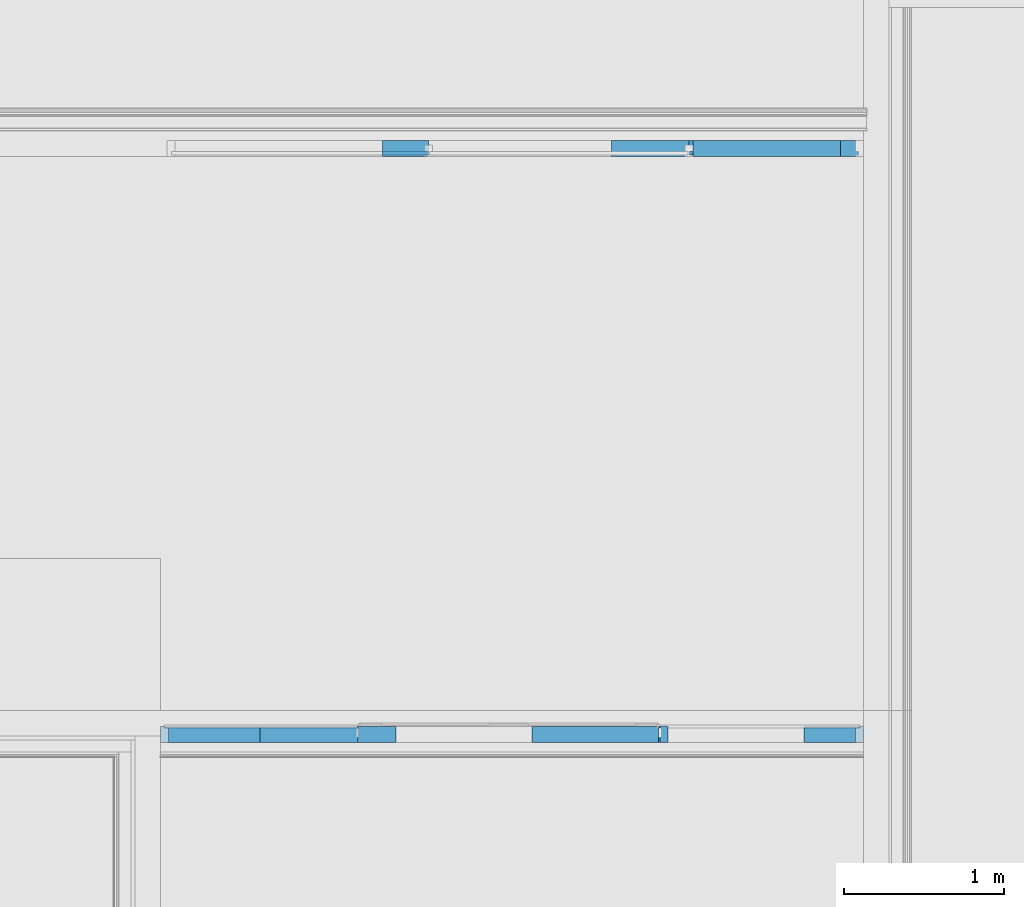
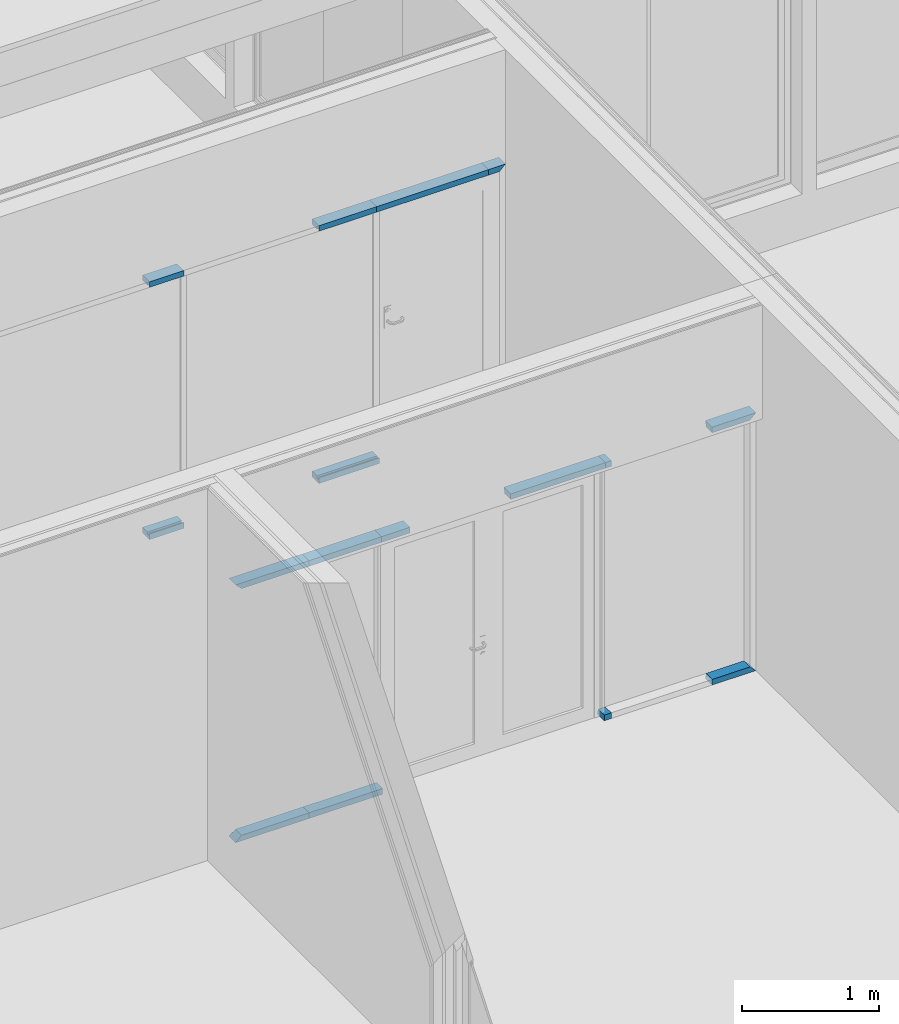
# One storey, part 50 of 139: 16 members, 2 elements without a shape of their own.
"""IFC2X3 building model written with IfcOpenShell, lengths in millimetres."""

from ifc_helpers import new_model, entity, si_unit, converted_unit, derived_unit, money_unit, direction, frame, origin_with_axes, place, context, subcontext, project, spatial, faceted_brep, material, type_object, element, aggregate, save


model = new_model("IFC2X3")

# Units and contexts
model_context = context("Model", 3, precision=0.01, world=origin_with_axes(), true_north=direction((0.0, 1.0)))
body_context = subcontext(model_context, "Body", "Model", "MODEL_VIEW")
ifc_project = project(units=[si_unit("LENGTHUNIT", "METRE", prefix="MILLI"), si_unit("AREAUNIT", "SQUARE_METRE"), si_unit("VOLUMEUNIT", "CUBIC_METRE"), converted_unit("PLANEANGLEUNIT", "DEGREE", entity("IfcPlaneAngleMeasure", 0.0174532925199), si_unit("PLANEANGLEUNIT", "RADIAN"), dimensions=[0, 0, 0, 0, 0, 0, 0]), money_unit("EUR"), converted_unit("TIMEUNIT", "Year", entity("IfcTimeMeasure", 31556926.0), si_unit("TIMEUNIT", "SECOND"), dimensions=[0, 0, 1, 0, 0, 0, 0]), si_unit("MASSUNIT", "GRAM", prefix="KILO"), si_unit("THERMODYNAMICTEMPERATUREUNIT", "DEGREE_CELSIUS"), si_unit("LUMINOUSINTENSITYUNIT", "LUMEN"), si_unit("ENERGYUNIT", "JOULE", prefix="MEGA"), derived_unit("THERMALCONDUCTANCEUNIT", [(si_unit("POWERUNIT", "WATT"), 1), (si_unit("LENGTHUNIT", "METRE"), -1), (si_unit("THERMODYNAMICTEMPERATUREUNIT", "KELVIN"), -1)]), derived_unit("SPECIFICHEATCAPACITYUNIT", [(si_unit("ENERGYUNIT", "JOULE"), 1), (si_unit("MASSUNIT", "GRAM", prefix="KILO"), -1), (si_unit("THERMODYNAMICTEMPERATUREUNIT", "KELVIN"), -1)]), derived_unit("MASSDENSITYUNIT", [(si_unit("MASSUNIT", "GRAM", prefix="KILO"), 1), (si_unit("VOLUMEUNIT", "CUBIC_METRE"), -1)])], contexts=[model_context])

# Site, building, storey
site_placement = place(None, origin_with_axes())
site = spatial("IfcSite", under=ifc_project, at=site_placement, Name="Kolde pst 67a", CompositionType="ELEMENT")
building_placement = place(site_placement, origin_with_axes())
building = spatial("IfcBuilding", under=site, at=building_placement, Name="Riigigümnaasium", CompositionType="ELEMENT")
storey_placement = place(building_placement, frame((0.0, 0.0, 4600.0), z_axis=(0.0, 0.0, 1.0), x_axis=(1.0, 0.0, 0.0)))
storey = spatial("IfcBuildingStorey", under=building, at=storey_placement, Name="2. korrus", CompositionType="ELEMENT", Elevation=4600.0)

# Curtain wall, members
curtain_wall_type = type_object("IfcCurtainWallType", Name="Curtain Wall Type", PredefinedType="NOTDEFINED")
curtain_wall_1_placement = place(storey_placement, frame((35564.9561331, 55789.9111982, 0.0), z_axis=(0.0, 0.0, 1.0), x_axis=(1.0, 0.0, 0.0)))
curtain_wall_1 = element("IfcCurtainWall", 1, at=curtain_wall_1_placement, inside=storey, type_object=curtain_wall_type, Name="KLAASSEIN")
ifc_material_1 = material(Name="_GENEERILINE MATERJAL")
member_type = type_object("IfcMemberType", Name="Boundary Frame 50 x 100", PredefinedType="MEMBER")
member_1_placement = place(curtain_wall_1_placement, frame((-3674.95943176, 0.0, 2300.0), z_axis=(1.0, 0.0, 0.0), x_axis=(0.0, 0.0, 1.0)))
member_1 = element("IfcMember", 2, at=member_1_placement, type_object=member_type, material=ifc_material_1, Name="RF RAAM SERV-111", ObjectType="MEMBER", context=body_context, shape_type="Brep", body=[
    faceted_brep([(-50.0, 10.0, 50.0), (-50.0, 10.0, 619.918508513), (-50.0, 100.0, 619.918508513), (-50.0, 100.0, 50.0), (-25.0, 10.0, 619.918508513), (-25.0, 10.0, 25.0), (-25.0, 0.0, 619.918508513), (0.0, 0.0, 619.918508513), (0.0, 100.0, 619.918508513), (0.0, 100.0, 0.0), (0.0, 0.0, 0.0), (-25.0, 0.0, 25.0)], [[[0, 1, 2, 3]], [[4, 1, 0, 5]], [[4, 6, 7, 8, 2, 1]], [[2, 8, 9, 3]], [[5, 0, 3, 9, 10, 11]], [[11, 6, 4, 5]], [[6, 11, 10, 7]], [[8, 7, 10, 9]]]),
])
member_2_placement = place(curtain_wall_1_placement, frame((-3674.95943176, 0.0, 0.0), z_axis=(1.0, 0.0, 0.0), x_axis=(0.0, 0.0, 1.0)))
member_2 = element("IfcMember", 3, at=member_2_placement, type_object=member_type, material=ifc_material_1, Name="RF RAAM SERV-113", ObjectType="MEMBER", context=body_context, shape_type="Brep", body=[
    faceted_brep([(50.0, 10.0, 50.0), (50.0, 100.0, 50.0), (50.0, 100.0, 619.918508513), (50.0, 10.0, 619.918508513), (25.0, 10.0, 25.0), (25.0, 0.0, 25.0), (0.0, 0.0, 0.0), (0.0, 100.0, 0.0), (0.0, 100.0, 619.918508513), (25.0, 10.0, 619.918508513), (0.0, 0.0, 619.918508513), (25.0, 0.0, 619.918508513)], [[[0, 1, 2, 3]], [[4, 5, 6, 7, 1, 0]], [[2, 1, 7, 8]], [[9, 3, 2, 8, 10, 11]], [[9, 4, 0, 3]], [[5, 4, 9, 11]], [[11, 10, 6, 5]], [[8, 7, 6, 10]]]),
])
member_3_placement = place(curtain_wall_1_placement, frame((-2444.9611912, 0.0, 2300.0), z_axis=(1.0, 0.0, 0.0), x_axis=(0.0, 0.0, 1.0)))
member_3 = element("IfcMember", 4, at=member_3_placement, type_object=member_type, material=ifc_material_1, Name="RF RAAM SERV-124", ObjectType="MEMBER", context=body_context, shape_type="Brep", body=[
    faceted_brep([(-50.0, 10.0, 0.0), (-50.0, 10.0, 239.920267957), (-50.0, 100.0, 239.920267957), (-50.0, 100.0, 0.0), (-25.0, 10.0, 239.920267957), (-25.0, 10.0, 0.0), (-25.0, 0.0, 239.920267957), (0.0, 0.0, 239.920267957), (0.0, 100.0, 239.920267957), (0.0, 100.0, 0.0), (0.0, 0.0, 0.0), (-25.0, 0.0, 0.0)], [[[0, 1, 2, 3]], [[4, 1, 0, 5]], [[4, 6, 7, 8, 2, 1]], [[3, 2, 8, 9]], [[5, 0, 3, 9, 10, 11]], [[11, 6, 4, 5]], [[6, 11, 10, 7]], [[9, 8, 7, 10]]]),
])
member_4_placement = place(curtain_wall_1_placement, frame((-554.961222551, 0.0, 2300.0), z_axis=(1.0, 0.0, 0.0), x_axis=(0.0, 0.0, 1.0)))
member_4 = element("IfcMember", 5, at=member_4_placement, type_object=member_type, material=ifc_material_1, Name="RF RAAM SERV-122", ObjectType="MEMBER", context=body_context, shape_type="Brep", body=[
    faceted_brep([(-50.0, 10.0, 0.0), (-50.0, 10.0, 49.9202993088), (-50.0, 100.0, 49.9202993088), (-50.0, 100.0, 0.0), (-25.0, 10.0, 49.9202993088), (-25.0, 10.0, 0.0), (-25.0, 0.0, 49.9202993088), (0.0, 0.0, 49.9202993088), (0.0, 100.0, 49.9202993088), (0.0, 100.0, 0.0), (0.0, 0.0, 0.0), (-25.0, 0.0, 0.0)], [[[0, 1, 2, 3]], [[4, 1, 0, 5]], [[4, 6, 7, 8, 2, 1]], [[3, 2, 8, 9]], [[5, 0, 3, 9, 10, 11]], [[11, 6, 4, 5]], [[6, 11, 10, 7]], [[9, 8, 7, 10]]]),
])
member_5_placement = place(curtain_wall_1_placement, frame((-554.961222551, 0.0, 0.0), z_axis=(1.0, 0.0, 0.0), x_axis=(0.0, 0.0, 1.0)))
member_5 = element("IfcMember", 6, at=member_5_placement, type_object=member_type, material=ifc_material_1, Name="RF RAAM SERV-116", ObjectType="MEMBER", context=body_context, shape_type="Brep", body=[
    faceted_brep([(50.0, 10.0, -10.0), (50.0, 100.0, -10.0), (50.0, 100.0, 49.9202993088), (50.0, 10.0, 49.9202993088), (25.0, 10.0, -10.0), (25.0, 0.0, -10.0), (0.0, 0.0, -10.0), (0.0, 100.0, -10.0), (0.0, 100.0, 49.9202993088), (25.0, 10.0, 49.9202993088), (0.0, 0.0, 49.9202993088), (25.0, 0.0, 49.9202993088)], [[[0, 1, 2, 3]], [[4, 5, 6, 7, 1, 0]], [[1, 7, 8, 2]], [[9, 3, 2, 8, 10, 11]], [[9, 4, 0, 3]], [[5, 4, 9, 11]], [[11, 10, 6, 5]], [[7, 6, 10, 8]]]),
])
member_6_placement = place(curtain_wall_1_placement, frame((344.959076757, 0.0, 0.0), z_axis=(1.0, 0.0, 0.0), x_axis=(0.0, 0.0, 1.0)))
member_6 = element("IfcMember", 7, at=member_6_placement, type_object=member_type, material=ifc_material_1, Name="RF RAAM SERV-118", ObjectType="MEMBER", context=body_context, shape_type="Brep", body=[
    faceted_brep([(50.0, 10.0, 0.0), (50.0, 100.0, 0.0), (50.0, 100.0, 320.08399228), (50.0, 10.0, 320.08399228), (25.0, 10.0, 0.0), (25.0, 0.0, 0.0), (0.0, 0.0, 0.0), (0.0, 100.0, 0.0), (0.0, 100.0, 370.08399228), (25.0, 10.0, 345.08399228), (0.0, 0.0, 370.08399228), (25.0, 0.0, 345.08399228)], [[[0, 1, 2, 3]], [[4, 5, 6, 7, 1, 0]], [[1, 7, 8, 2]], [[9, 3, 2, 8, 10, 11]], [[9, 4, 0, 3]], [[5, 4, 9, 11]], [[11, 10, 6, 5]], [[7, 6, 10, 8]]]),
])
member_7_placement = place(curtain_wall_1_placement, frame((344.959076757, 0.0, 2300.0), z_axis=(1.0, 0.0, 0.0), x_axis=(0.0, 0.0, 1.0)))
member_7 = element("IfcMember", 8, at=member_7_placement, type_object=member_type, material=ifc_material_1, Name="RF RAAM SERV-120", ObjectType="MEMBER", context=body_context, shape_type="Brep", body=[
    faceted_brep([(-50.0, 10.0, 0.0), (-50.0, 10.0, 320.08399228), (-50.0, 100.0, 320.08399228), (-50.0, 100.0, 0.0), (-25.0, 10.0, 345.08399228), (-25.0, 10.0, 0.0), (-25.0, 0.0, 345.08399228), (0.0, 0.0, 370.08399228), (0.0, 100.0, 370.08399228), (0.0, 100.0, 0.0), (0.0, 0.0, 0.0), (-25.0, 0.0, 0.0)], [[[0, 1, 2, 3]], [[4, 1, 0, 5]], [[4, 6, 7, 8, 2, 1]], [[3, 2, 8, 9]], [[5, 0, 3, 9, 10, 11]], [[11, 6, 4, 5]], [[6, 11, 10, 7]], [[9, 8, 7, 10]]]),
])
member_8_placement = place(curtain_wall_1_placement, frame((-1355.04092324, 0.0, 2300.0), z_axis=(1.0, 0.0, 0.0), x_axis=(0.0, 0.0, 1.0)))
member_8 = element("IfcMember", 9, at=member_8_placement, type_object=member_type, material=ifc_material_1, Name="RF RAAM SERV-126", ObjectType="MEMBER", context=body_context, shape_type="Brep", body=[
    faceted_brep([(-50.0, 10.0, 0.0), (-50.0, 10.0, 800.079700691), (-50.0, 100.0, 800.079700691), (-50.0, 100.0, 0.0), (-25.0, 10.0, 800.079700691), (-25.0, 10.0, 0.0), (-25.0, 0.0, 800.079700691), (0.0, 0.0, 800.079700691), (0.0, 100.0, 800.079700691), (0.0, 100.0, 0.0), (0.0, 0.0, 0.0), (-25.0, 0.0, 0.0)], [[[0, 1, 2, 3]], [[4, 1, 0, 5]], [[4, 6, 7, 8, 2, 1]], [[3, 2, 8, 9]], [[5, 0, 3, 9, 10, 11]], [[11, 6, 4, 5]], [[6, 11, 10, 7]], [[9, 8, 7, 10]]]),
])
member_9_placement = place(curtain_wall_1_placement, frame((-3055.04092324, 0.0, 0.0), z_axis=(1.0, 0.0, 0.0), x_axis=(0.0, 0.0, 1.0)))
member_9 = element("IfcMember", 10, at=member_9_placement, type_object=member_type, material=ifc_material_1, Name="RF RAAM SERV-127", ObjectType="MEMBER", context=body_context, shape_type="Brep", body=[
    faceted_brep([(50.0, 10.0, 0.0), (50.0, 100.0, 0.0), (50.0, 100.0, 620.079732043), (50.0, 10.0, 620.079732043), (25.0, 10.0, 0.0), (25.0, 0.0, 0.0), (0.0, 0.0, 0.0), (0.0, 100.0, 0.0), (0.0, 100.0, 620.079732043), (25.0, 10.0, 620.079732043), (0.0, 0.0, 620.079732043), (25.0, 0.0, 620.079732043)], [[[0, 1, 2, 3]], [[4, 5, 6, 7, 1, 0]], [[1, 7, 8, 2]], [[9, 3, 2, 8, 10, 11]], [[9, 4, 0, 3]], [[5, 4, 9, 11]], [[11, 10, 6, 5]], [[7, 6, 10, 8]]]),
])
member_10_placement = place(curtain_wall_1_placement, frame((-3055.04092324, 0.0, 2300.0), z_axis=(1.0, 0.0, 0.0), x_axis=(0.0, 0.0, 1.0)))
member_10 = element("IfcMember", 11, at=member_10_placement, type_object=member_type, material=ifc_material_1, Name="RF RAAM SERV-128", ObjectType="MEMBER", context=body_context, shape_type="Brep", body=[
    faceted_brep([(-50.0, 10.0, 0.0), (-50.0, 10.0, 610.079732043), (-50.0, 100.0, 610.079732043), (-50.0, 100.0, 0.0), (-25.0, 10.0, 610.079732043), (-25.0, 10.0, 0.0), (-25.0, 0.0, 610.079732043), (0.0, 0.0, 610.079732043), (0.0, 100.0, 610.079732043), (0.0, 100.0, 0.0), (0.0, 0.0, 0.0), (-25.0, 0.0, 0.0)], [[[0, 1, 2, 3]], [[4, 1, 0, 5]], [[4, 6, 7, 8, 2, 1]], [[3, 2, 8, 9]], [[5, 0, 3, 9, 10, 11]], [[11, 6, 4, 5]], [[6, 11, 10, 7]], [[9, 8, 7, 10]]]),
])
aggregate(curtain_wall_1, [member_1, member_2, member_3, member_4, member_5, member_6, member_7, member_8, member_9, member_10])

curtain_wall_2_placement = place(storey_placement, frame((32923.3668784, 59369.9979478, 0.0), z_axis=(0.0, 0.0, 1.0), x_axis=(1.0, 0.0, 0.0)))
curtain_wall_2 = element("IfcCurtainWall", 12, at=curtain_wall_2_placement, inside=storey, type_object=curtain_wall_type, Name="KLAASSEIN")
ifc_material_2 = material(Name="_METALL - alumiinium")
member_11_placement = place(curtain_wall_2_placement, frame((2266.63234292, 0.0, 2300.0), z_axis=(1.0, 0.0, 0.0), x_axis=(0.0, 0.0, 1.0)))
member_11 = element("IfcMember", 13, at=member_11_placement, type_object=member_type, material=ifc_material_2, Name="RF RAAM SERV-502", ObjectType="MEMBER", context=body_context, shape_type="Brep", body=[
    faceted_brep([(-30.0, -10.0, 945.956621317), (-50.0, -10.0, 945.956621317), (-50.0, -80.0, 945.956621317), (0.0, -80.0, 945.956621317), (0.0, 20.0, 945.956621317), (-50.0, 20.0, 945.956621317), (-50.0, 10.0, 945.956621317), (-30.0, 10.0, 945.956621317), (-30.0, -10.0, 0.0), (-50.0, -10.0, 0.0), (-50.0, -80.0, 0.0), (0.0, -80.0, 0.0), (0.0, 20.0, 0.0), (-50.0, 20.0, 0.0), (-50.0, 10.0, 0.0), (-30.0, 10.0, 0.0)], [[[0, 1, 2, 3, 4, 5, 6, 7]], [[0, 8, 9, 1]], [[9, 10, 2, 1]], [[10, 11, 3, 2]], [[11, 12, 4, 3]], [[12, 13, 5, 4]], [[6, 5, 13, 14]], [[14, 15, 7, 6]], [[7, 15, 8, 0]], [[8, 15, 14, 13, 12, 11, 10, 9]]]),
])
member_12_placement = place(curtain_wall_2_placement, frame((1782.58896424, 0.0, 0.0), z_axis=(1.0, 0.0, 0.0), x_axis=(0.0, 0.0, 1.0)))
member_12 = element("IfcMember", 14, at=member_12_placement, type_object=member_type, material=ifc_material_2, Name="RF RAAM SERV-498", ObjectType="MEMBER", context=body_context, shape_type="Brep", body=[
    faceted_brep([(30.0, -10.0, 509.043378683), (30.0, 10.0, 509.043378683), (50.0, 10.0, 509.043378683), (50.0, 20.0, 509.043378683), (0.0, 20.0, 509.043378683), (0.0, -80.0, 509.043378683), (50.0, -80.0, 509.043378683), (50.0, -10.0, 509.043378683), (30.0, -10.0, 0.0), (30.0, 10.0, 0.0), (50.0, 10.0, 0.0), (50.0, 20.0, 0.0), (0.0, 20.0, 0.0), (0.0, -80.0, 0.0), (50.0, -80.0, 0.0), (50.0, -10.0, 0.0)], [[[0, 1, 2, 3, 4, 5, 6, 7]], [[1, 0, 8, 9]], [[10, 2, 1, 9]], [[2, 10, 11, 3]], [[12, 4, 3, 11]], [[13, 5, 4, 12]], [[14, 6, 5, 13]], [[15, 7, 6, 14]], [[0, 7, 15, 8]], [[8, 15, 14, 13, 12, 11, 10, 9]]]),
])
member_13_placement = place(curtain_wall_2_placement, frame((1782.58896424, 0.0, 2300.0), z_axis=(1.0, 0.0, 0.0), x_axis=(0.0, 0.0, 1.0)))
member_13 = element("IfcMember", 15, at=member_13_placement, type_object=member_type, material=ifc_material_2, Name="RF RAAM SERV-502", ObjectType="MEMBER", context=body_context, shape_type="Brep", body=[
    faceted_brep([(-30.0, -10.0, 484.043378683), (-50.0, -10.0, 484.043378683), (-50.0, -80.0, 484.043378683), (0.0, -80.0, 484.043378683), (0.0, 20.0, 484.043378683), (-50.0, 20.0, 484.043378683), (-50.0, 10.0, 484.043378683), (-30.0, 10.0, 484.043378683), (-30.0, -10.0, 0.0), (-50.0, -10.0, 0.0), (-50.0, -80.0, 0.0), (0.0, -80.0, 0.0), (0.0, 20.0, 0.0), (-50.0, 20.0, 0.0), (-50.0, 10.0, 0.0), (-30.0, 10.0, 0.0)], [[[0, 1, 2, 3, 4, 5, 6, 7]], [[0, 8, 9, 1]], [[9, 10, 2, 1]], [[10, 11, 3, 2]], [[11, 12, 4, 3]], [[12, 13, 5, 4]], [[6, 5, 13, 14]], [[14, 15, 7, 6]], [[7, 15, 8, 0]], [[8, 15, 14, 13, 12, 11, 10, 9]]]),
])
member_14_placement = place(curtain_wall_2_placement, frame((352.588964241, 0.0, 2300.0), z_axis=(1.0, 0.0, 0.0), x_axis=(0.0, 0.0, 1.0)))
member_14 = element("IfcMember", 16, at=member_14_placement, type_object=member_type, material=ifc_material_2, Name="RF RAAM SERV-503", ObjectType="MEMBER", context=body_context, shape_type="Brep", body=[
    faceted_brep([(-30.0, -10.0, 289.043388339), (-50.0, -10.0, 289.043388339), (-50.0, -80.0, 289.043388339), (0.0, -80.0, 289.043388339), (0.0, 20.0, 289.043388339), (-50.0, 20.0, 289.043388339), (-50.0, 10.0, 289.043388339), (-30.0, 10.0, 289.043388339), (-30.0, -10.0, 0.0), (-50.0, -10.0, 0.0), (-50.0, -80.0, 0.0), (0.0, -80.0, 0.0), (0.0, 20.0, 0.0), (-50.0, 20.0, 0.0), (-50.0, 10.0, 0.0), (-30.0, 10.0, 0.0)], [[[0, 1, 2, 3, 4, 5, 6, 7]], [[0, 8, 9, 1]], [[9, 10, 2, 1]], [[10, 11, 3, 2]], [[11, 12, 4, 3]], [[12, 13, 5, 4]], [[6, 5, 13, 14]], [[14, 15, 7, 6]], [[7, 15, 8, 0]], [[8, 15, 14, 13, 12, 11, 10, 9]]]),
])
member_15_placement = place(curtain_wall_2_placement, frame((352.588964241, 0.0, 0.0), z_axis=(1.0, 0.0, 0.0), x_axis=(0.0, 0.0, 1.0)))
member_15 = element("IfcMember", 17, at=member_15_placement, type_object=member_type, material=ifc_material_2, Name="RF RAAM SERV-497", ObjectType="MEMBER", context=body_context, shape_type="Brep", body=[
    faceted_brep([(30.0, -10.0, 289.043388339), (30.0, 10.0, 289.043388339), (50.0, 10.0, 289.043388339), (50.0, 20.0, 289.043388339), (0.0, 20.0, 289.043388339), (0.0, -80.0, 289.043388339), (50.0, -80.0, 289.043388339), (50.0, -10.0, 289.043388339), (30.0, -10.0, 0.0), (30.0, 10.0, 0.0), (50.0, 10.0, 0.0), (50.0, 20.0, 0.0), (0.0, 20.0, 0.0), (0.0, -80.0, 0.0), (50.0, -80.0, 0.0), (50.0, -10.0, 0.0)], [[[0, 1, 2, 3, 4, 5, 6, 7]], [[1, 0, 8, 9]], [[10, 2, 1, 9]], [[2, 10, 11, 3]], [[12, 4, 3, 11]], [[13, 5, 4, 12]], [[14, 6, 5, 13]], [[15, 7, 6, 14]], [[0, 7, 15, 8]], [[8, 15, 14, 13, 12, 11, 10, 9]]]),
])
member_16_placement = place(curtain_wall_2_placement, frame((3212.58896424, 0.0, 2300.0), z_axis=(1.0, 0.0, 0.0), x_axis=(0.0, 0.0, 1.0)))
member_16 = element("IfcMember", 18, at=member_16_placement, type_object=member_type, material=ifc_material_2, Name="RF RAAM SERV-501", ObjectType="MEMBER", context=body_context, shape_type="Brep", body=[
    faceted_brep([(-30.0, -10.0, 114.04346703), (-50.0, -10.0, 94.0434670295), (-50.0, -80.0, 94.0434670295), (0.0, -80.0, 144.04346703), (0.0, 20.0, 144.04346703), (-50.0, 20.0, 94.0434670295), (-50.0, 10.0, 94.0434670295), (-30.0, 10.0, 114.04346703), (-30.0, -10.0, 0.0), (-50.0, -10.0, 0.0), (-50.0, -80.0, 0.0), (0.0, -80.0, 0.0), (0.0, 20.0, 0.0), (-50.0, 20.0, 0.0), (-50.0, 10.0, 0.0), (-30.0, 10.0, 0.0)], [[[0, 1, 2, 3, 4, 5, 6, 7]], [[0, 8, 9, 1]], [[9, 10, 2, 1]], [[10, 11, 3, 2]], [[11, 12, 4, 3]], [[12, 13, 5, 4]], [[6, 5, 13, 14]], [[14, 15, 7, 6]], [[7, 15, 8, 0]], [[8, 15, 14, 13, 12, 11, 10, 9]]]),
])
aggregate(curtain_wall_2, [member_11, member_12, member_13, member_14, member_15, member_16])

save(model, "model.ifc")
